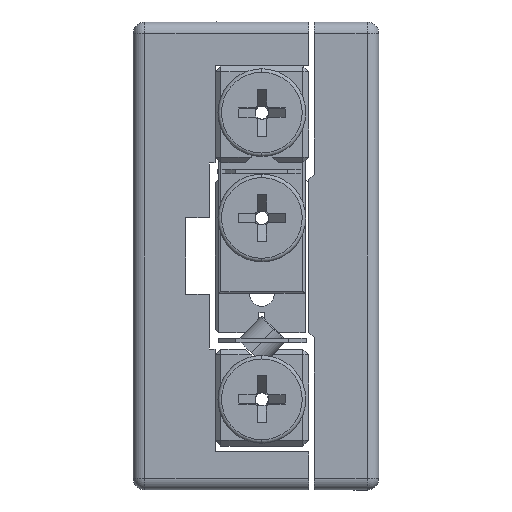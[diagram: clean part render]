
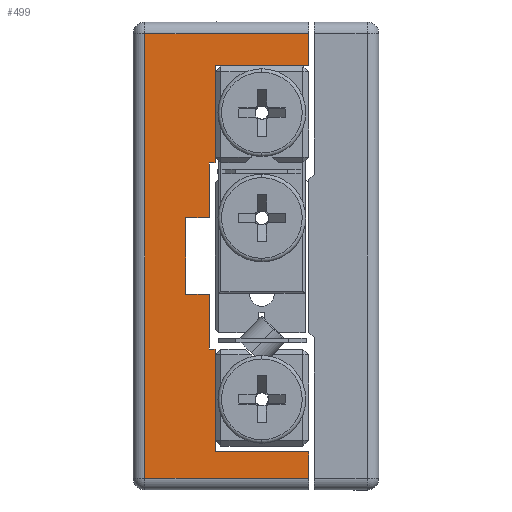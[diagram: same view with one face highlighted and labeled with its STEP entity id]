
A CAD part, left-side view. The second image highlights one B-rep face of the part: STEP entity #499.
In plain terms, the highlighted planar face has unit normal (-1, 0, 0).
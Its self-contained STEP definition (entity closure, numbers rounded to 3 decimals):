
#499 = ADVANCED_FACE ( 'NONE', ( #23113 ), #20386, .F. ) ;
#1243 = LINE ( 'NONE', #25939, #1256 ) ;
#1248 = VECTOR ( 'NONE', #25947, 1000. ) ;
#1251 = LINE ( 'NONE', #25966, #1259 ) ;
#1253 = LINE ( 'NONE', #25943, #1248 ) ;
#1256 = VECTOR ( 'NONE', #25941, 1000. ) ;
#1259 = VECTOR ( 'NONE', #25968, 1000. ) ;
#1275 = LINE ( 'NONE', #26367, #1280 ) ;
#1280 = VECTOR ( 'NONE', #26368, 1000. ) ;
#1299 = LINE ( 'NONE', #26525, #1302 ) ;
#1302 = VECTOR ( 'NONE', #26526, 1000. ) ;
#2168 = LINE ( 'NONE', #12513, #2185 ) ;
#2185 = VECTOR ( 'NONE', #12514, 1000. ) ;
#2190 = LINE ( 'NONE', #12520, #2193 ) ;
#2193 = VECTOR ( 'NONE', #12522, 1000. ) ;
#2219 = LINE ( 'NONE', #12576, #2222 ) ;
#2222 = VECTOR ( 'NONE', #12577, 1000. ) ;
#2232 = LINE ( 'NONE', #12613, #2243 ) ;
#2243 = VECTOR ( 'NONE', #12607, 1000. ) ;
#3738 = ORIENTED_EDGE ( 'NONE', *, *, #8875, .F. ) ;
#3766 = ORIENTED_EDGE ( 'NONE', *, *, #9237, .F. ) ;
#3786 = ORIENTED_EDGE ( 'NONE', *, *, #9220, .T. ) ;
#3919 = ORIENTED_EDGE ( 'NONE', *, *, #26585, .F. ) ;
#3921 = ORIENTED_EDGE ( 'NONE', *, *, #8856, .F. ) ;
#3939 = ORIENTED_EDGE ( 'NONE', *, *, #15364, .F. ) ;
#3942 = ORIENTED_EDGE ( 'NONE', *, *, #8865, .F. ) ;
#4048 = ORIENTED_EDGE ( 'NONE', *, *, #26625, .T. ) ;
#4229 = ORIENTED_EDGE ( 'NONE', *, *, #15316, .T. ) ;
#4319 = ORIENTED_EDGE ( 'NONE', *, *, #9242, .F. ) ;
#4320 = ORIENTED_EDGE ( 'NONE', *, *, #15317, .T. ) ;
#4335 = ORIENTED_EDGE ( 'NONE', *, *, #15345, .T. ) ;
#4413 = ORIENTED_EDGE ( 'NONE', *, *, #8877, .F. ) ;
#4414 = ORIENTED_EDGE ( 'NONE', *, *, #26610, .F. ) ;
#4446 = ORIENTED_EDGE ( 'NONE', *, *, #15321, .F. ) ;
#4447 = ORIENTED_EDGE ( 'NONE', *, *, #26589, .F. ) ;
#4610 = VERTEX_POINT ( 'NONE', #4798 ) ;
#4611 = VERTEX_POINT ( 'NONE', #4799 ) ;
#4798 = CARTESIAN_POINT ( 'NONE',  ( -23.353, -6.216, 19. ) ) ;
#4799 = CARTESIAN_POINT ( 'NONE',  ( -23.353, 4.284, -3.25 ) ) ;
#4804 = CARTESIAN_POINT ( 'NONE',  ( -23.353, 7.784, 19. ) ) ;
#4870 = CARTESIAN_POINT ( 'NONE',  ( -23.353, 7.784, -19. ) ) ;
#5129 = CARTESIAN_POINT ( 'NONE',  ( -23.353, 1.784, -16.75 ) ) ;
#5199 = AXIS2_PLACEMENT_3D ( 'NONE', #20382, #20393, #20395 ) ;
#6717 = VERTEX_POINT ( 'NONE', #5129 ) ;
#6734 = VERTEX_POINT ( 'NONE', #4870 ) ;
#6886 = VERTEX_POINT ( 'NONE', #4804 ) ;
#6897 = VERTEX_POINT ( 'NONE', #28521 ) ;
#6911 = VERTEX_POINT ( 'NONE', #28940 ) ;
#6913 = VERTEX_POINT ( 'NONE', #28939 ) ;
#6977 = EDGE_LOOP ( 'NONE', ( #4320, #4048, #4229, #3766, #4446, #3942, #3939, #3921, #3919, #4447, #4414, #3738, #4319, #4413, #4335, #3786 ) ) ;
#8856 = EDGE_CURVE ( 'NONE', #4611, #6911, #22264, .T. ) ;
#8865 = EDGE_CURVE ( 'NONE', #6897, #27411, #22276, .T. ) ;
#8875 = EDGE_CURVE ( 'NONE', #27413, #27206, #22288, .T. ) ;
#8877 = EDGE_CURVE ( 'NONE', #27410, #27184, #22292, .T. ) ;
#9220 = EDGE_CURVE ( 'NONE', #4610, #6886, #22797, .T. ) ;
#9237 = EDGE_CURVE ( 'NONE', #6717, #27407, #22826, .T. ) ;
#9242 = EDGE_CURVE ( 'NONE', #27184, #27413, #22836, .T. ) ;
#12513 = CARTESIAN_POINT ( 'NONE',  ( -23.353, 4.284, -3.25 ) ) ;
#12514 = DIRECTION ( 'NONE',  ( 0., 0., -1. ) ) ;
#12520 = CARTESIAN_POINT ( 'NONE',  ( -23.353, 4.284, 3.25 ) ) ;
#12522 = DIRECTION ( 'NONE',  ( 0., 1., 0. ) ) ;
#12576 = CARTESIAN_POINT ( 'NONE',  ( -23.353, 2.284, 3.25 ) ) ;
#12577 = DIRECTION ( 'NONE',  ( 0., 0., -1. ) ) ;
#12607 = DIRECTION ( 'NONE',  ( 0., -1., 0. ) ) ;
#12613 = CARTESIAN_POINT ( 'NONE',  ( -23.353, 8.784, -19. ) ) ;
#15316 = EDGE_CURVE ( 'NONE', #27417, #27407, #1243, .T. ) ;
#15317 = EDGE_CURVE ( 'NONE', #6886, #6734, #1253, .T. ) ;
#15321 = EDGE_CURVE ( 'NONE', #27411, #6717, #1251, .T. ) ;
#15345 = EDGE_CURVE ( 'NONE', #27410, #4610, #1275, .T. ) ;
#15364 = EDGE_CURVE ( 'NONE', #6911, #6897, #1299, .T. ) ;
#16300 = CARTESIAN_POINT ( 'NONE',  ( -23.353, 4.284, 3.25 ) ) ;
#16307 = CARTESIAN_POINT ( 'NONE',  ( -23.353, 1.784, 16.25 ) ) ;
#16329 = CARTESIAN_POINT ( 'NONE',  ( -23.353, 2.284, 7.95 ) ) ;
#16403 = CARTESIAN_POINT ( 'NONE',  ( -23.353, -6.216, -16.75 ) ) ;
#16406 = CARTESIAN_POINT ( 'NONE',  ( -23.353, -6.216, 16.25 ) ) ;
#16407 = CARTESIAN_POINT ( 'NONE',  ( -23.353, 1.784, -7.95 ) ) ;
#16409 = CARTESIAN_POINT ( 'NONE',  ( -23.353, 1.784, 7.95 ) ) ;
#16413 = CARTESIAN_POINT ( 'NONE',  ( -23.353, -6.216, -19. ) ) ;
#19518 = DIRECTION ( 'NONE',  ( 0., 1., 0. ) ) ;
#19521 = CARTESIAN_POINT ( 'NONE',  ( -23.353, 8.784, 19. ) ) ;
#19566 = CARTESIAN_POINT ( 'NONE',  ( -23.353, 1.784, -16.75 ) ) ;
#19568 = DIRECTION ( 'NONE',  ( 0., -1., 0. ) ) ;
#19576 = CARTESIAN_POINT ( 'NONE',  ( -23.353, 1.784, 7.95 ) ) ;
#19577 = DIRECTION ( 'NONE',  ( 0., 0., -1. ) ) ;
#20382 = CARTESIAN_POINT ( 'NONE',  ( -23.353, 8.784, -20. ) ) ;
#20386 = PLANE ( 'NONE',  #5199 ) ;
#20393 = DIRECTION ( 'NONE',  ( 1., 0., 0. ) ) ;
#20395 = DIRECTION ( 'NONE',  ( 0., 0., -1. ) ) ;
#22264 = LINE ( 'NONE', #23871, #22269 ) ;
#22269 = VECTOR ( 'NONE', #23887, 1000. ) ;
#22276 = LINE ( 'NONE', #24058, #22279 ) ;
#22279 = VECTOR ( 'NONE', #23969, 1000. ) ;
#22288 = LINE ( 'NONE', #24156, #22293 ) ;
#22292 = LINE ( 'NONE', #24169, #22297 ) ;
#22293 = VECTOR ( 'NONE', #24172, 1000. ) ;
#22297 = VECTOR ( 'NONE', #24184, 1000. ) ;
#22797 = LINE ( 'NONE', #19521, #22803 ) ;
#22803 = VECTOR ( 'NONE', #19518, 1000. ) ;
#22826 = LINE ( 'NONE', #19566, #22829 ) ;
#22829 = VECTOR ( 'NONE', #19568, 1000. ) ;
#22836 = LINE ( 'NONE', #19576, #22839 ) ;
#22839 = VECTOR ( 'NONE', #19577, 1000. ) ;
#23113 = FACE_OUTER_BOUND ( 'NONE', #6977, .T. ) ;
#23871 = CARTESIAN_POINT ( 'NONE',  ( -23.353, 2.284, -3.25 ) ) ;
#23887 = DIRECTION ( 'NONE',  ( 0., -1., 0. ) ) ;
#23969 = DIRECTION ( 'NONE',  ( 0., -1., 0. ) ) ;
#24058 = CARTESIAN_POINT ( 'NONE',  ( -23.353, 1.784, -7.95 ) ) ;
#24156 = CARTESIAN_POINT ( 'NONE',  ( -23.353, 2.284, 7.95 ) ) ;
#24169 = CARTESIAN_POINT ( 'NONE',  ( -23.353, 1.784, 16.25 ) ) ;
#24172 = DIRECTION ( 'NONE',  ( 0., 1., 0. ) ) ;
#24184 = DIRECTION ( 'NONE',  ( 0., 1., 0. ) ) ;
#25939 = CARTESIAN_POINT ( 'NONE',  ( -23.353, -6.216, -20. ) ) ;
#25941 = DIRECTION ( 'NONE',  ( 0., 0., 1. ) ) ;
#25943 = CARTESIAN_POINT ( 'NONE',  ( -23.353, 7.784, -20. ) ) ;
#25947 = DIRECTION ( 'NONE',  ( 0., 0., -1. ) ) ;
#25966 = CARTESIAN_POINT ( 'NONE',  ( -23.353, 1.784, -16.75 ) ) ;
#25968 = DIRECTION ( 'NONE',  ( 0., 0., -1. ) ) ;
#26367 = CARTESIAN_POINT ( 'NONE',  ( -23.353, -6.216, -20. ) ) ;
#26368 = DIRECTION ( 'NONE',  ( 0., 0., 1. ) ) ;
#26525 = CARTESIAN_POINT ( 'NONE',  ( -23.353, 2.284, -7.95 ) ) ;
#26526 = DIRECTION ( 'NONE',  ( 0., 0., -1. ) ) ;
#26585 = EDGE_CURVE ( 'NONE', #27175, #4611, #2168, .T. ) ;
#26589 = EDGE_CURVE ( 'NONE', #6913, #27175, #2190, .T. ) ;
#26610 = EDGE_CURVE ( 'NONE', #27206, #6913, #2219, .T. ) ;
#26625 = EDGE_CURVE ( 'NONE', #6734, #27417, #2232, .T. ) ;
#27175 = VERTEX_POINT ( 'NONE', #16300 ) ;
#27184 = VERTEX_POINT ( 'NONE', #16307 ) ;
#27206 = VERTEX_POINT ( 'NONE', #16329 ) ;
#27407 = VERTEX_POINT ( 'NONE', #16403 ) ;
#27410 = VERTEX_POINT ( 'NONE', #16406 ) ;
#27411 = VERTEX_POINT ( 'NONE', #16407 ) ;
#27413 = VERTEX_POINT ( 'NONE', #16409 ) ;
#27417 = VERTEX_POINT ( 'NONE', #16413 ) ;
#28521 = CARTESIAN_POINT ( 'NONE',  ( -23.353, 2.284, -7.95 ) ) ;
#28939 = CARTESIAN_POINT ( 'NONE',  ( -23.353, 2.284, 3.25 ) ) ;
#28940 = CARTESIAN_POINT ( 'NONE',  ( -23.353, 2.284, -3.25 ) ) ;
